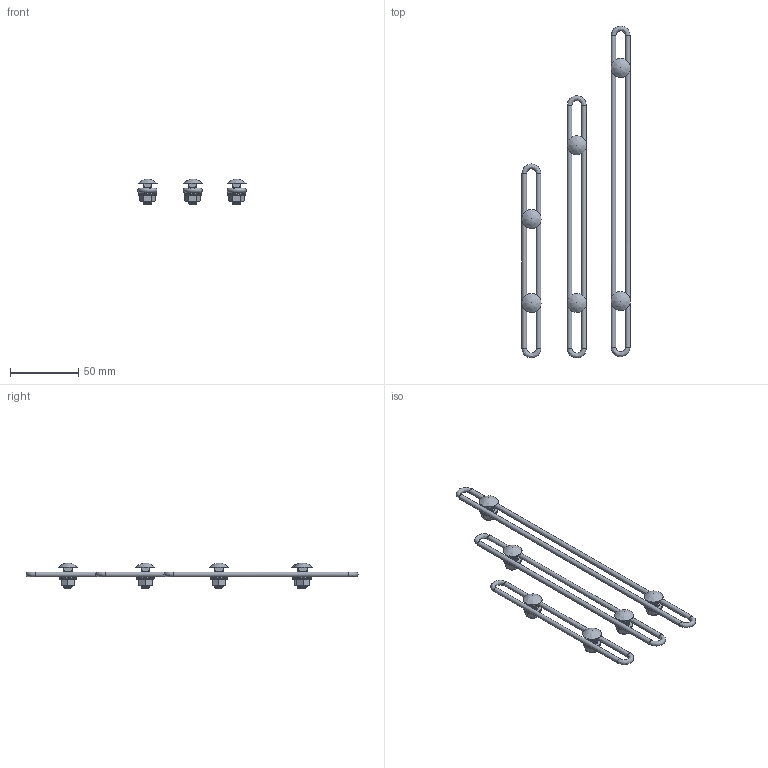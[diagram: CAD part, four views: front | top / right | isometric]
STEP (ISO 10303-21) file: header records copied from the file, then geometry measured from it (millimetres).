
FILE_DESCRIPTION(/* description */ (''),/* implementation_level */ '2;1');
FILE_NAME(/* name */ 'TSM',/* time_stamp */ '2025-03-13T21:19:38+01:00',/* author */ (''),/* organization */ (''),/* preprocessor_version */ 'ST-DEVELOPER v16.5',/* originating_system */ '',/* authorisation */ '');
FILE_SCHEMA (('CONFIG_CONTROL_DESIGN'));
Length unit declared in the file: millimetre
Products named in the file (1): Document
Bounding box: 79.26 x 243 x 19 mm (x, y, z)
Volume: 15285.2 mm3; surface area: 20969.8 mm2
Topology: 9 solids, 15 shells, 360 faces, 948 edges, 618 vertices
Faces by surface type: bspline 186, plane 90, cylinder 84
Full cylindrical faces by diameter (mm): 3.5 x6, 6 x60, 8.087 x6, 13 x6
Entity records: 50133 total; most frequent: CARTESIAN_POINT 44212, ORIENTED_EDGE 1806, EDGE_CURVE 942, B_SPLINE_CURVE_WITH_KNOTS 720, VERTEX_POINT 612, EDGE_LOOP 378, ADVANCED_FACE 360, FACE_OUTER_BOUND 360
